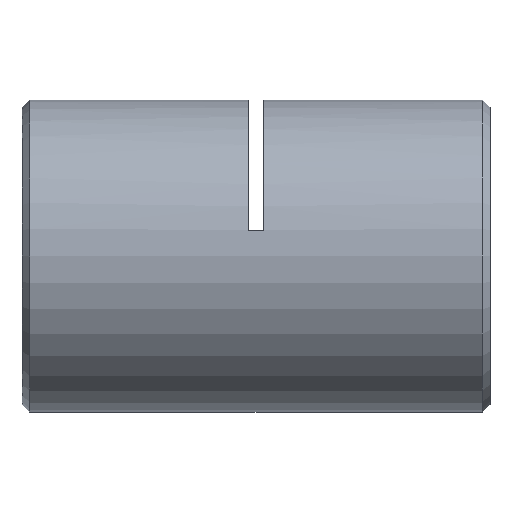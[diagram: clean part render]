
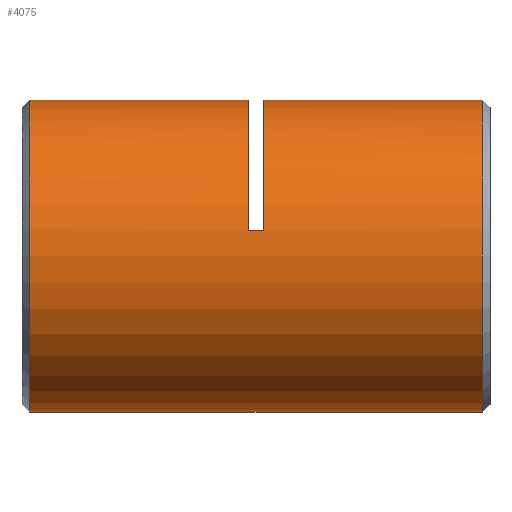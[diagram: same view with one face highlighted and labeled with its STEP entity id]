
A CAD part, left-side view. The second image highlights one B-rep face of the part: STEP entity #4075.
In plain terms, the highlighted cylindrical face has radius 10 mm (diameter 20 mm), a partial arc.
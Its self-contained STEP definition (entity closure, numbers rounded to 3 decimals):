
#23 = DIRECTION ( 'NONE',  ( 0., 1., 0. ) ) ;
#312 = ORIENTED_EDGE ( 'NONE', *, *, #4530, .T. ) ;
#540 = CARTESIAN_POINT ( 'NONE',  ( 0., 0.75, -10. ) ) ;
#853 = CARTESIAN_POINT ( 'NONE',  ( 0., 0., 10. ) ) ;
#854 = VERTEX_POINT ( 'NONE', #1581 ) ;
#998 = DIRECTION ( 'NONE',  ( 0., 0., 1. ) ) ;
#1060 = AXIS2_PLACEMENT_3D ( 'NONE', #4339, #1156, #5195 ) ;
#1155 = EDGE_CURVE ( 'NONE', #5240, #4827, #3707, .T. ) ;
#1156 = DIRECTION ( 'NONE',  ( 0., -1., 0. ) ) ;
#1259 = EDGE_CURVE ( 'NONE', #854, #4822, #3368, .T. ) ;
#1306 = VECTOR ( 'NONE', #2673, 1000. ) ;
#1334 = CARTESIAN_POINT ( 'NONE',  ( 0., 29.75, -10. ) ) ;
#1351 = CARTESIAN_POINT ( 'NONE',  ( 0., 14.75, 0. ) ) ;
#1413 = VERTEX_POINT ( 'NONE', #3005 ) ;
#1486 = LINE ( 'NONE', #4240, #1553 ) ;
#1553 = VECTOR ( 'NONE', #3793, 1000. ) ;
#1581 = CARTESIAN_POINT ( 'NONE',  ( -9.86, 14.75, 1.667 ) ) ;
#1651 = ORIENTED_EDGE ( 'NONE', *, *, #3264, .F. ) ;
#1986 = EDGE_LOOP ( 'NONE', ( #1651, #4794, #3916, #4851, #3116, #312, #2699, #3393 ) ) ;
#2035 = CARTESIAN_POINT ( 'NONE',  ( 0., 0.75, 0. ) ) ;
#2085 = EDGE_CURVE ( 'NONE', #2945, #3202, #3785, .T. ) ;
#2156 = AXIS2_PLACEMENT_3D ( 'NONE', #3677, #4598, #5103 ) ;
#2483 = DIRECTION ( 'NONE',  ( 0., 0., 1. ) ) ;
#2494 = EDGE_CURVE ( 'NONE', #5749, #2945, #2701, .T. ) ;
#2537 = DIRECTION ( 'NONE',  ( 0., 1., 0. ) ) ;
#2673 = DIRECTION ( 'NONE',  ( 0., 1., 0. ) ) ;
#2699 = ORIENTED_EDGE ( 'NONE', *, *, #2494, .T. ) ;
#2701 = LINE ( 'NONE', #3319, #3279 ) ;
#2835 = CARTESIAN_POINT ( 'NONE',  ( 0., 15.75, 10. ) ) ;
#2945 = VERTEX_POINT ( 'NONE', #3856 ) ;
#2989 = CIRCLE ( 'NONE', #2156, 10. ) ;
#3005 = CARTESIAN_POINT ( 'NONE',  ( -9.86, 15.75, 1.667 ) ) ;
#3097 = CARTESIAN_POINT ( 'NONE',  ( 0., 0.75, 10. ) ) ;
#3115 = CARTESIAN_POINT ( 'NONE',  ( 0., 0., 0. ) ) ;
#3116 = ORIENTED_EDGE ( 'NONE', *, *, #5816, .T. ) ;
#3202 = VERTEX_POINT ( 'NONE', #1334 ) ;
#3264 = EDGE_CURVE ( 'NONE', #5240, #3202, #4121, .T. ) ;
#3279 = VECTOR ( 'NONE', #3823, 1000. ) ;
#3319 = CARTESIAN_POINT ( 'NONE',  ( 0., 0., 10. ) ) ;
#3368 = CIRCLE ( 'NONE', #4517, 10. ) ;
#3393 = ORIENTED_EDGE ( 'NONE', *, *, #2085, .T. ) ;
#3484 = LINE ( 'NONE', #853, #4600 ) ;
#3550 = DIRECTION ( 'NONE',  ( 0., 1., 0. ) ) ;
#3641 = CARTESIAN_POINT ( 'NONE',  ( 0., 0., -10. ) ) ;
#3677 = CARTESIAN_POINT ( 'NONE',  ( 0., 15.75, 0. ) ) ;
#3707 = CIRCLE ( 'NONE', #4939, 10. ) ;
#3785 = CIRCLE ( 'NONE', #1060, 10. ) ;
#3793 = DIRECTION ( 'NONE',  ( 0., 1., 0. ) ) ;
#3823 = DIRECTION ( 'NONE',  ( 0., 1., 0. ) ) ;
#3856 = CARTESIAN_POINT ( 'NONE',  ( 0., 29.75, 10. ) ) ;
#3916 = ORIENTED_EDGE ( 'NONE', *, *, #4110, .T. ) ;
#4075 = ADVANCED_FACE ( 'NONE', ( #5547 ), #4328, .T. ) ;
#4110 = EDGE_CURVE ( 'NONE', #4827, #4822, #3484, .T. ) ;
#4121 = LINE ( 'NONE', #3641, #1306 ) ;
#4240 = CARTESIAN_POINT ( 'NONE',  ( -9.86, 15.25, 1.667 ) ) ;
#4328 = CYLINDRICAL_SURFACE ( 'NONE', #5107, 10. ) ;
#4339 = CARTESIAN_POINT ( 'NONE',  ( 0., 29.75, 0. ) ) ;
#4517 = AXIS2_PLACEMENT_3D ( 'NONE', #1351, #5524, #998 ) ;
#4530 = EDGE_CURVE ( 'NONE', #1413, #5749, #2989, .T. ) ;
#4598 = DIRECTION ( 'NONE',  ( 0., 1., 0. ) ) ;
#4600 = VECTOR ( 'NONE', #23, 1000. ) ;
#4794 = ORIENTED_EDGE ( 'NONE', *, *, #1155, .T. ) ;
#4822 = VERTEX_POINT ( 'NONE', #4918 ) ;
#4827 = VERTEX_POINT ( 'NONE', #3097 ) ;
#4851 = ORIENTED_EDGE ( 'NONE', *, *, #1259, .F. ) ;
#4918 = CARTESIAN_POINT ( 'NONE',  ( 0., 14.75, 10. ) ) ;
#4939 = AXIS2_PLACEMENT_3D ( 'NONE', #2035, #2537, #2483 ) ;
#5103 = DIRECTION ( 'NONE',  ( 0., 0., 1. ) ) ;
#5107 = AXIS2_PLACEMENT_3D ( 'NONE', #3115, #3550, #5427 ) ;
#5195 = DIRECTION ( 'NONE',  ( 0., 0., -1. ) ) ;
#5240 = VERTEX_POINT ( 'NONE', #540 ) ;
#5427 = DIRECTION ( 'NONE',  ( 0., 0., 1. ) ) ;
#5524 = DIRECTION ( 'NONE',  ( 0., 1., 0. ) ) ;
#5547 = FACE_OUTER_BOUND ( 'NONE', #1986, .T. ) ;
#5749 = VERTEX_POINT ( 'NONE', #2835 ) ;
#5816 = EDGE_CURVE ( 'NONE', #854, #1413, #1486, .T. ) ;
